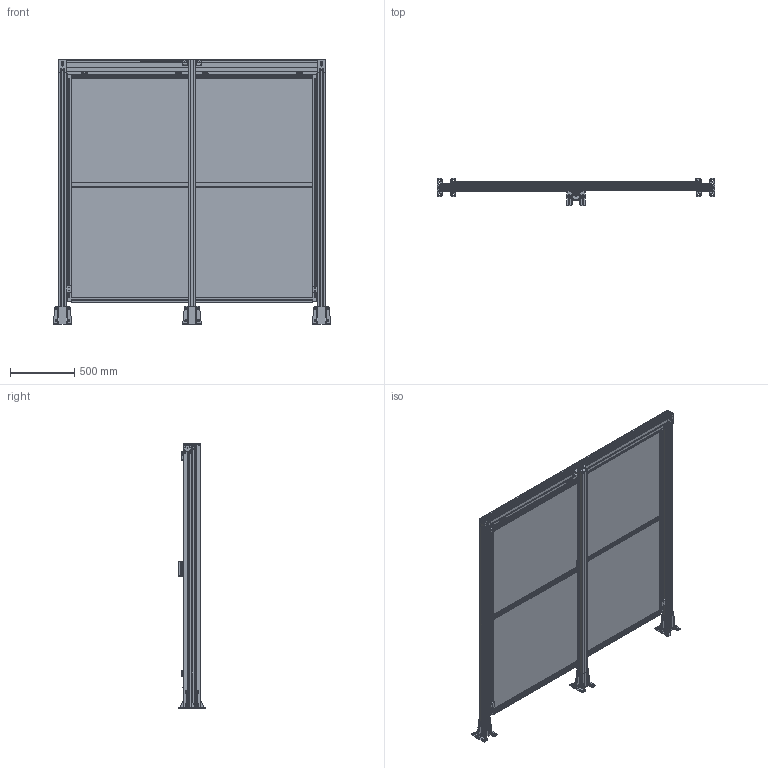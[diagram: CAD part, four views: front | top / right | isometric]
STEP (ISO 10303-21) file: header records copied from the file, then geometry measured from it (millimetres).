
FILE_DESCRIPTION(/* description */ (''),/* implementation_level */ '2;1');
FILE_NAME(/* name */ 'Z:\Marketing\fastline\Porta scorrevole doppia H=2000.stp',/* time_stamp */ '2021-10-15T15:11:14+02:00',/* author */ ('mpistoia'),/* organization */ (''),/* preprocessor_version */ 'ST-DEVELOPER v17.2',/* originating_system */ 'Autodesk Inventor 2019',/* authorisation */ '');
FILE_SCHEMA (('AUTOMOTIVE_DESIGN { 1 0 10303 214 3 1 1 }'));
Products named in the file (1): Porta scorrevole doppia H=2000
Bounding box: 2165.13 x 217.45 x 2063 mm (x, y, z)
Volume: 21365294.9 mm3; surface area: 17051900.1 mm2
Topology: 7 solids, 37 shells, 6778 faces, 17812 edges, 11346 vertices
Faces by surface type: plane 3982, cylinder 2287, sphere 229, cone 219, bspline 40, torus 21
Full cylindrical faces by diameter (mm): 3.2 x4, 3.25 x18, 4 x36, 4.5 x25, 5 x4, 5.5 x22, 6 x10, 6.1 x8, 6.2 x8, 6.35 x8, 6.5 x4, 6.647 x12, 7 x4, 7.5 x20, 8 x22, 8.5 x10, 9 x8, 9.5 x14, 11 x14, 11.63 x16, 13 x16, 13.2 x24, 24.5 x8, 27 x8
Entity records: 212759 total; most frequent: CARTESIAN_POINT 42027, DIRECTION 36223, ORIENTED_EDGE 35540, EDGE_CURVE 17770, AXIS2_PLACEMENT_3D 12322, LINE 11579, VECTOR 11579, VERTEX_POINT 11346
